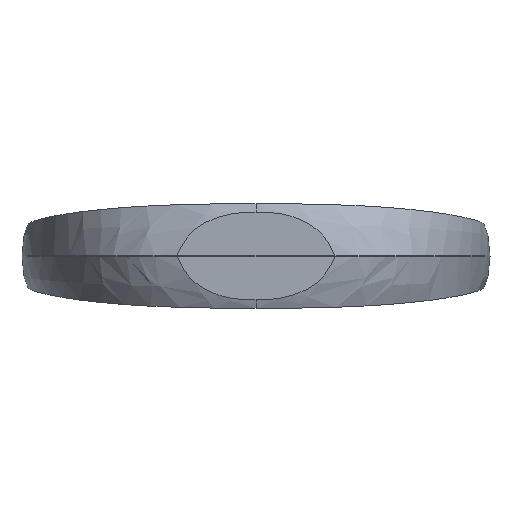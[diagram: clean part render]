
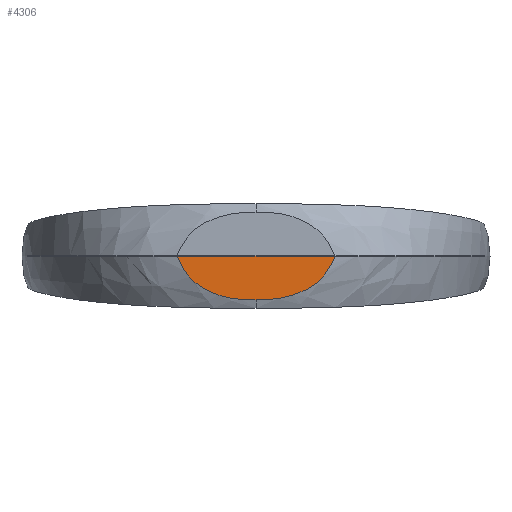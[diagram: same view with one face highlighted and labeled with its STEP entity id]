
A CAD part, front view. The second image highlights one B-rep face of the part: STEP entity #4306.
In plain terms, the highlighted planar face has unit normal (0, -1, 0).
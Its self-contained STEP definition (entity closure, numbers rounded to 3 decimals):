
#143 = CARTESIAN_POINT ( 'NONE',  ( 26.033, 0., -15.51 ) ) ;
#147 = CARTESIAN_POINT ( 'NONE',  ( -15.598, 0., -19.831 ) ) ;
#196 = CARTESIAN_POINT ( 'NONE',  ( 28.921, 0., -13.584 ) ) ;
#241 = EDGE_CURVE ( 'NONE', #6968, #628, #7207, .T. ) ;
#573 = CARTESIAN_POINT ( 'NONE',  ( 0.985, 0., -21.392 ) ) ;
#622 = CARTESIAN_POINT ( 'NONE',  ( 12.694, 0., -20.489 ) ) ;
#628 = VERTEX_POINT ( 'NONE', #1494 ) ;
#679 = CARTESIAN_POINT ( 'NONE',  ( -34.9, 0., -7.056 ) ) ;
#722 = CARTESIAN_POINT ( 'NONE',  ( 9.794, 0., -20.948 ) ) ;
#773 = CARTESIAN_POINT ( 'NONE',  ( 1.969, 0., -21.393 ) ) ;
#831 = ORIENTED_EDGE ( 'NONE', *, *, #241, .T. ) ;
#989 = CARTESIAN_POINT ( 'NONE',  ( -1.972, 0., -21.393 ) ) ;
#1210 = EDGE_LOOP ( 'NONE', ( #831, #5233, #3208 ) ) ;
#1411 = CARTESIAN_POINT ( 'NONE',  ( 4.916, 0., -21.335 ) ) ;
#1494 = CARTESIAN_POINT ( 'NONE',  ( 0., 0., -21.39 ) ) ;
#1614 = CARTESIAN_POINT ( 'NONE',  ( 24.749, 0., -16.253 ) ) ;
#1618 = CARTESIAN_POINT ( 'NONE',  ( -27.715, 0., -14.436 ) ) ;
#1675 = CARTESIAN_POINT ( 'NONE',  ( -12.713, 0., -20.486 ) ) ;
#1775 = CARTESIAN_POINT ( 'NONE',  ( 38.132, 0., -0.914 ) ) ;
#1779 = CARTESIAN_POINT ( 'NONE',  ( -7.862, 0., -21.179 ) ) ;
#1826 = CARTESIAN_POINT ( 'NONE',  ( 33.76, 0., -8.695 ) ) ;
#2258 = CARTESIAN_POINT ( 'NONE',  ( 21.21, 0., -17.98 ) ) ;
#2374 = FACE_OUTER_BOUND ( 'NONE', #1210, .T. ) ;
#2670 = CARTESIAN_POINT ( 'NONE',  ( -13.677, 0., -20.29 ) ) ;
#2746 = CARTESIAN_POINT ( 'NONE',  ( 38.528, 0., 0. ) ) ;
#2859 = LINE ( 'NONE', #8832, #6074 ) ;
#2902 = VERTEX_POINT ( 'NONE', #2746 ) ;
#2996 = CARTESIAN_POINT ( 'NONE',  ( 7.849, 0., -21.157 ) ) ;
#3048 = CARTESIAN_POINT ( 'NONE',  ( 16.528, 0., -19.576 ) ) ;
#3055 = CARTESIAN_POINT ( 'NONE',  ( -26.042, 0., -15.504 ) ) ;
#3208 = ORIENTED_EDGE ( 'NONE', *, *, #7414, .F. ) ;
#3309 = CARTESIAN_POINT ( 'NONE',  ( 36.863, 0., -3.611 ) ) ;
#3361 = CARTESIAN_POINT ( 'NONE',  ( 31.175, 0., -11.683 ) ) ;
#3790 = CARTESIAN_POINT ( 'NONE',  ( 3.935, 0., -21.364 ) ) ;
#3898 = CARTESIAN_POINT ( 'NONE',  ( -23.89, 0., -16.702 ) ) ;
#3941 = CARTESIAN_POINT ( 'NONE',  ( 13.656, 0., -20.294 ) ) ;
#4100 = CARTESIAN_POINT ( 'NONE',  ( 32.849, 0., -9.879 ) ) ;
#4259 = CARTESIAN_POINT ( 'NONE',  ( 34.899, 0., -7.057 ) ) ;
#4306 = ADVANCED_FACE ( 'NONE', ( #2374 ), #7829, .F. ) ;
#4646 = CARTESIAN_POINT ( 'NONE',  ( -27.301, 0., -14.714 ) ) ;
#4749 = CARTESIAN_POINT ( 'NONE',  ( -36.864, 0., -3.608 ) ) ;
#4852 = CARTESIAN_POINT ( 'NONE',  ( -26.465, 0., -15.248 ) ) ;
#5006 = CARTESIAN_POINT ( 'NONE',  ( 29.698, 0., -12.978 ) ) ;
#5233 = ORIENTED_EDGE ( 'NONE', *, *, #8248, .T. ) ;
#5248 = CARTESIAN_POINT ( 'NONE',  ( -38.528, 0., 0. ) ) ;
#5438 = CARTESIAN_POINT ( 'NONE',  ( -35.426, 0., -6.213 ) ) ;
#5482 = CARTESIAN_POINT ( 'NONE',  ( 23.876, 0., -16.71 ) ) ;
#5635 = CARTESIAN_POINT ( 'NONE',  ( -29.711, 0., -12.968 ) ) ;
#5650 = DIRECTION ( 'NONE',  ( 1., 0., 0. ) ) ;
#6074 = VECTOR ( 'NONE', #5650, 1000. ) ;
#6213 = CARTESIAN_POINT ( 'NONE',  ( 10.763, 0., -20.816 ) ) ;
#6322 = CARTESIAN_POINT ( 'NONE',  ( -37.727, 0., -1.821 ) ) ;
#6330 = DIRECTION ( 'NONE',  ( 1., 0., 0. ) ) ;
#6373 = CARTESIAN_POINT ( 'NONE',  ( -38.133, 0., -0.913 ) ) ;
#6418 = CARTESIAN_POINT ( 'NONE',  ( 33.16, 0., -9.491 ) ) ;
#6422 = CARTESIAN_POINT ( 'NONE',  ( -33.761, 0., -8.693 ) ) ;
#6577 = CARTESIAN_POINT ( 'NONE',  ( 37.726, 0., -1.822 ) ) ;
#6968 = VERTEX_POINT ( 'NONE', #5248 ) ;
#7122 = CARTESIAN_POINT ( 'NONE',  ( -19.395, 0., -18.683 ) ) ;
#7173 = CARTESIAN_POINT ( 'NONE',  ( -38.528, 0., 0. ) ) ;
#7207 = B_SPLINE_CURVE_WITH_KNOTS ( 'NONE', 3,
 ( #7173, #6373, #6322, #4749, #9616, #5438, #679, #8665, #6422, #8768, #10464, #7873, #9667, #5635, #8871, #1618, #4646, #4852, #3055, #8073, #3898, #8717, #7122, #10366, #147, #2670, #1675, #7383, #1779, #8330, #8180, #989, #9133, #8978 ),
 .UNSPECIFIED., .F., .F.,
 ( 4, 2, 2, 2, 2, 2, 2, 2, 2, 2, 2, 2, 2, 2, 2, 2, 4 ),
 ( 0., 0.003, 0.006, 0.009, 0.01, 0.012, 0.015, 0.018, 0.019, 0.021, 0.024, 0.03, 0.033, 0.036, 0.042, 0.045, 0.048 ),
 .UNSPECIFIED. ) ;
#7327 = CARTESIAN_POINT ( 'NONE',  ( 36.407, 0., -4.491 ) ) ;
#7383 = CARTESIAN_POINT ( 'NONE',  ( -9.811, 0., -20.978 ) ) ;
#7414 = EDGE_CURVE ( 'NONE', #6968, #2902, #2859, .T. ) ;
#7433 = CARTESIAN_POINT ( 'NONE',  ( 31.875, 0., -10.994 ) ) ;
#7457 = B_SPLINE_CURVE_WITH_KNOTS ( 'NONE', 3,
 ( #7816, #573, #773, #3790, #1411, #10252, #2996, #722, #6213, #622, #3941, #10307, #3048, #10411, #2258, #5482, #1614, #143, #8973, #8918, #9875, #196, #5006, #3361, #7433, #4100, #6418, #1826, #8278, #4259, #9080, #7327, #3309, #6577, #1775, #8867 ),
 .UNSPECIFIED., .F., .F.,
 ( 4, 2, 2, 2, 2, 2, 2, 2, 2, 2, 2, 2, 2, 2, 2, 2, 2, 4 ),
 ( 0., 0.003, 0.006, 0.009, 0.012, 0.015, 0.018, 0.023, 0.026, 0.028, 0.029, 0.032, 0.035, 0.037, 0.038, 0.041, 0.044, 0.047 ),
 .UNSPECIFIED. ) ;
#7816 = CARTESIAN_POINT ( 'NONE',  ( 0., 0., -21.39 ) ) ;
#7829 = PLANE ( 'NONE',  #7946 ) ;
#7873 = CARTESIAN_POINT ( 'NONE',  ( -31.886, 0., -10.982 ) ) ;
#7931 = CARTESIAN_POINT ( 'NONE',  ( 491.745, 0., 0. ) ) ;
#7946 = AXIS2_PLACEMENT_3D ( 'NONE', #7931, #8826, #6330 ) ;
#8073 = CARTESIAN_POINT ( 'NONE',  ( -24.761, 0., -16.246 ) ) ;
#8180 = CARTESIAN_POINT ( 'NONE',  ( -3.94, 0., -21.364 ) ) ;
#8248 = EDGE_CURVE ( 'NONE', #628, #2902, #7457, .T. ) ;
#8278 = CARTESIAN_POINT ( 'NONE',  ( 34.053, 0., -8.288 ) ) ;
#8330 = CARTESIAN_POINT ( 'NONE',  ( -4.922, 0., -21.335 ) ) ;
#8665 = CARTESIAN_POINT ( 'NONE',  ( -34.052, 0., -8.289 ) ) ;
#8717 = CARTESIAN_POINT ( 'NONE',  ( -21.23, 0., -17.971 ) ) ;
#8768 = CARTESIAN_POINT ( 'NONE',  ( -33.165, 0., -9.485 ) ) ;
#8826 = DIRECTION ( 'NONE',  ( 0., 1., 0. ) ) ;
#8832 = CARTESIAN_POINT ( 'NONE',  ( -127.788, 0., 0. ) ) ;
#8867 = CARTESIAN_POINT ( 'NONE',  ( 38.528, 0., 0. ) ) ;
#8871 = CARTESIAN_POINT ( 'NONE',  ( -28.933, 0., -13.576 ) ) ;
#8918 = CARTESIAN_POINT ( 'NONE',  ( 27.294, 0., -14.718 ) ) ;
#8973 = CARTESIAN_POINT ( 'NONE',  ( 26.457, 0., -15.253 ) ) ;
#8978 = CARTESIAN_POINT ( 'NONE',  ( 0., 0., -21.39 ) ) ;
#9080 = CARTESIAN_POINT ( 'NONE',  ( 35.425, 0., -6.214 ) ) ;
#9133 = CARTESIAN_POINT ( 'NONE',  ( -0.986, 0., -21.392 ) ) ;
#9616 = CARTESIAN_POINT ( 'NONE',  ( -36.408, 0., -4.489 ) ) ;
#9667 = CARTESIAN_POINT ( 'NONE',  ( -31.188, 0., -11.671 ) ) ;
#9875 = CARTESIAN_POINT ( 'NONE',  ( 27.708, 0., -14.441 ) ) ;
#10252 = CARTESIAN_POINT ( 'NONE',  ( 6.874, 0., -21.232 ) ) ;
#10307 = CARTESIAN_POINT ( 'NONE',  ( 15.572, 0., -19.838 ) ) ;
#10366 = CARTESIAN_POINT ( 'NONE',  ( -16.558, 0., -19.568 ) ) ;
#10411 = CARTESIAN_POINT ( 'NONE',  ( 19.371, 0., -18.692 ) ) ;
#10464 = CARTESIAN_POINT ( 'NONE',  ( -32.856, 0., -9.871 ) ) ;
